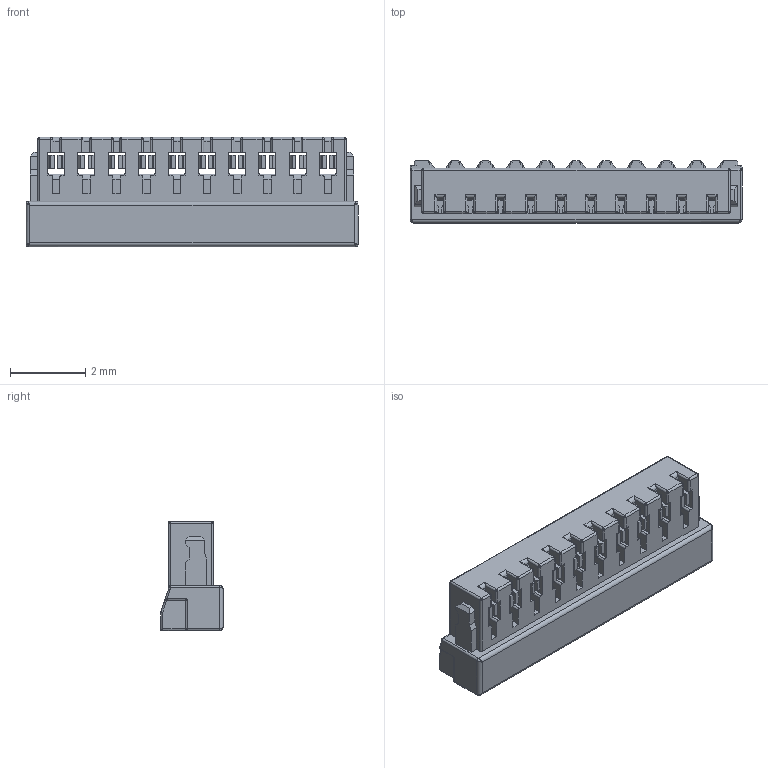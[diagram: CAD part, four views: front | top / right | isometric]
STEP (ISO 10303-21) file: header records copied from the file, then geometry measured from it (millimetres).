
FILE_DESCRIPTION((''),'2;1');
FILE_NAME('SCT0800HI-10','2023-03-26T10:14:40',('Administrator'),(''),'CREO PARAMETRIC BY PTC INC, 2018050','CREO PARAMETRIC BY PTC INC, 2018050','');
FILE_SCHEMA(('CONFIG_CONTROL_DESIGN'));
Length unit declared in the file: millimetre
Products named in the file (1): SCT0800HI-10
Bounding box: 8.8 x 1.65 x 2.9 mm (x, y, z)
Volume: 22.3 mm3; surface area: 167.5 mm2
Topology: 1 solids, 1 shells, 1786 faces, 5188 edges, 3259 vertices
Faces by surface type: plane 1194, cylinder 526, sphere 60, bspline 5, torus 1
Entity records: 58410 total; most frequent: CARTESIAN_POINT 10925, ORIENTED_EDGE 10286, DIRECTION 9640, EDGE_CURVE 5143, VECTOR 4018, LINE 4018, VERTEX_POINT 3259, AXIS2_PLACEMENT_3D 2811
